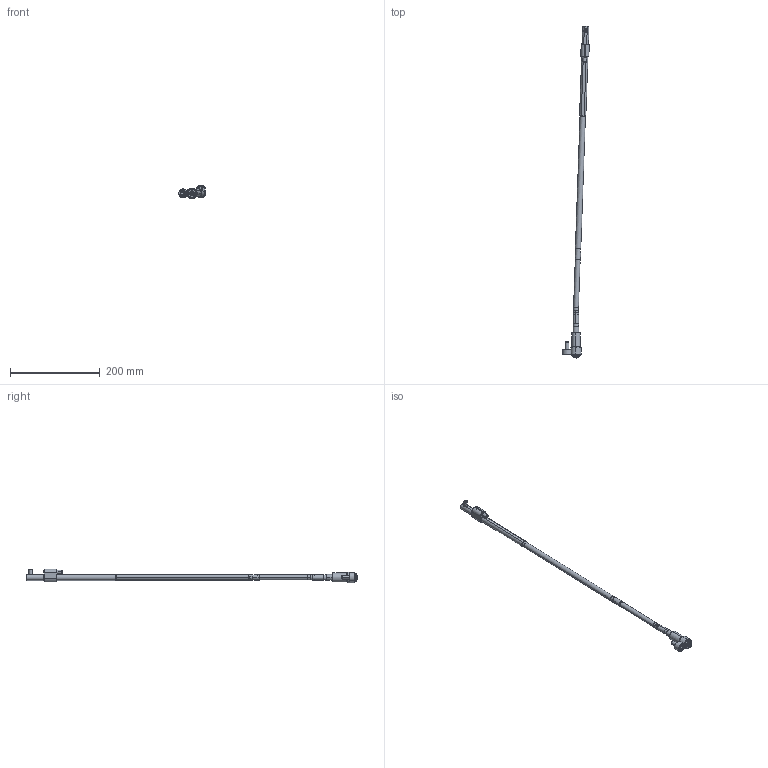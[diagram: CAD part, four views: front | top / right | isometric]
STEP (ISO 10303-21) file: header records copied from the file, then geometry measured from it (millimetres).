
FILE_DESCRIPTION (( 'STEP AP214' ), '1' );
FILE_NAME ('WL120100-EJE 2°.STEP', '2021-03-19T15:33:35', ( '' ), ( '' ), 'SwSTEP 2.0', 'SolidWorks 2019', '' );
FILE_SCHEMA (( 'AUTOMOTIVE_DESIGN' ));
Length unit declared in the file: millimetre
Products named in the file (17): Web-WL12-A8; WL120100-EJE 2°; 1DIN912820_DIN 912 M8 x 20 --- 20C; Web-WL12-A1; 9DR2808-TOR; 8WL12EJEP; Web-WL12-F00.SLDPRT; WL120100-B; Web-WL12-A3; WL120100-B1; Web-WL12-F01; WL120100-E; WL120100-D; 3IMAN5X3-150_con sellador; Web-WL12-A2; 1DIN912645_DIN 912 M6 x 45 --- 45C; Web-WL12-XX_ON-WL120100-2
Assembly tree (16 placements, depth 3):
  WL120100-EJE 2°
    Web-WL12-A8
    Web-WL12-XX_ON-WL120100-2
    Web-WL12-A3
    Web-WL12-A2
    Web-WL12-A1
    Web-WL12-F00.SLDPRT
      Web-WL12-F01
      1DIN912820_DIN 912 M8 x 20 --- 20C
      1DIN912645_DIN 912 M6 x 45 --- 45C
    WL120100-D
    8WL12EJEP
    WL120100-E
    9DR2808-TOR
    WL120100-B
      WL120100-B1
      3IMAN5X3-150_con sellador
Bounding box: 58.94 x 737.85 x 29.9 mm (x, y, z)
Volume: 113342.2 mm3; surface area: 49842.5 mm2
Topology: 15 solids, 15 shells, 432 faces, 906 edges, 525 vertices
Faces by surface type: plane 139, cylinder 123, cone 120, torus 50
Entity records: 13661 total; most frequent: DIRECTION 2240, CARTESIAN_POINT 2104, ORIENTED_EDGE 1788, AXIS2_PLACEMENT_3D 929, EDGE_CURVE 894, VERTEX_POINT 525, EDGE_LOOP 477, CIRCLE 476
